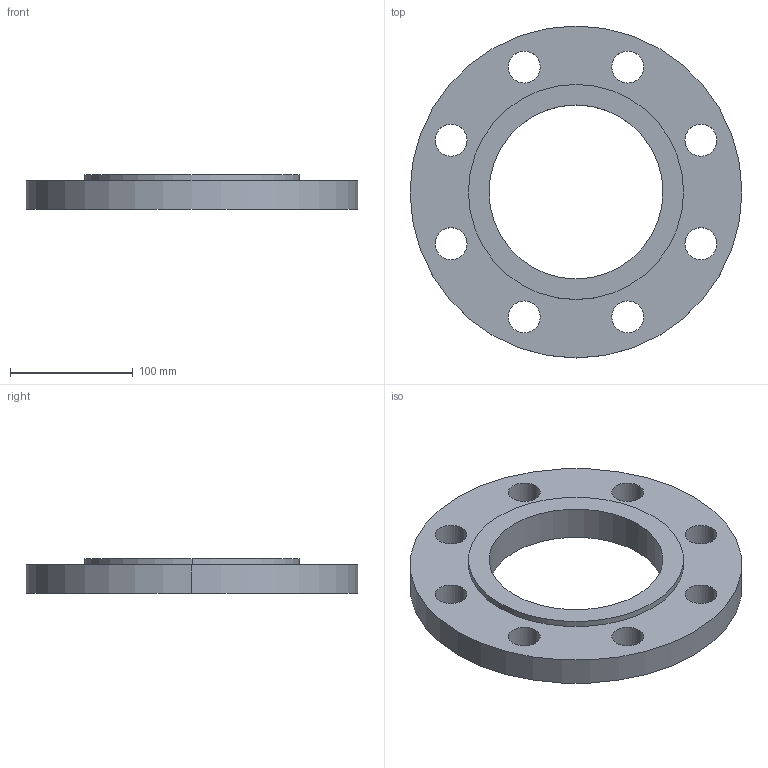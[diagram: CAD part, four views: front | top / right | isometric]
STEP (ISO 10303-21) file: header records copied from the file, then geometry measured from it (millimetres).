
FILE_DESCRIPTION (( 'STEP AP214' ), '1' );
FILE_NAME ('PN40 DN125 Type 01 - Type E Face.STEP', '2019-01-02T19:39:34', ( '' ), ( '' ), 'SwSTEP 2.0', 'SolidWorks 2019', '' );
FILE_SCHEMA (( 'AUTOMOTIVE_DESIGN' ));
Length unit declared in the file: millimetre
Products named in the file (1): PN40 DN125 Type 01 - Type E Face
Bounding box: 270 x 270 x 28 mm (x, y, z)
Volume: 899138 mm3; surface area: 124299.9 mm2
Topology: 1 solids, 1 shells, 25 faces, 66 edges, 44 vertices
Faces by surface type: cylinder 22, plane 3
Entity records: 874 total; most frequent: DIRECTION 162, CARTESIAN_POINT 136, ORIENTED_EDGE 132, AXIS2_PLACEMENT_3D 70, EDGE_CURVE 66, CIRCLE 44, EDGE_LOOP 44, VERTEX_POINT 44
